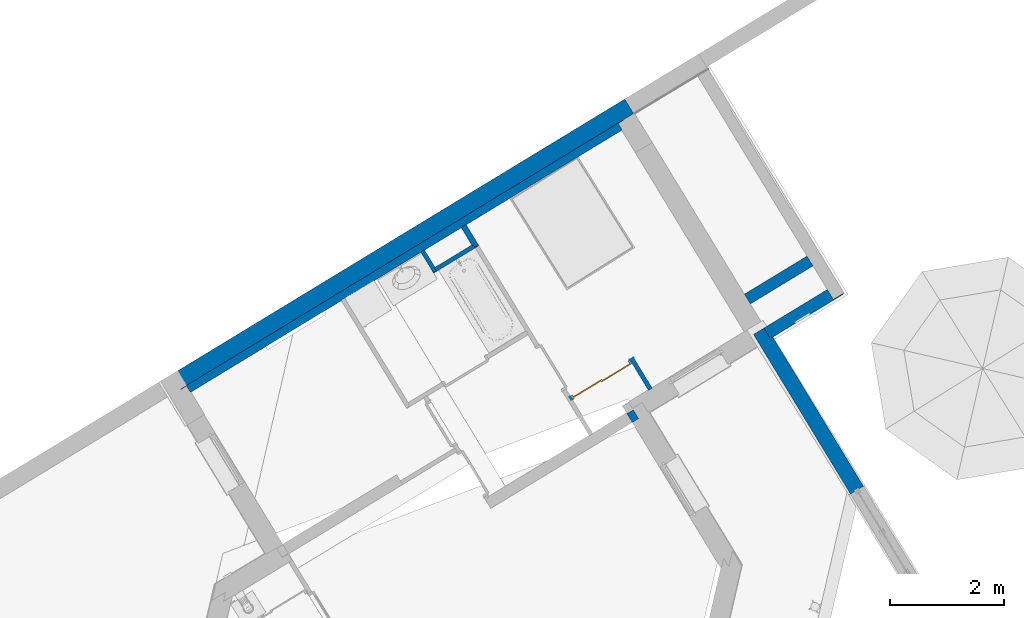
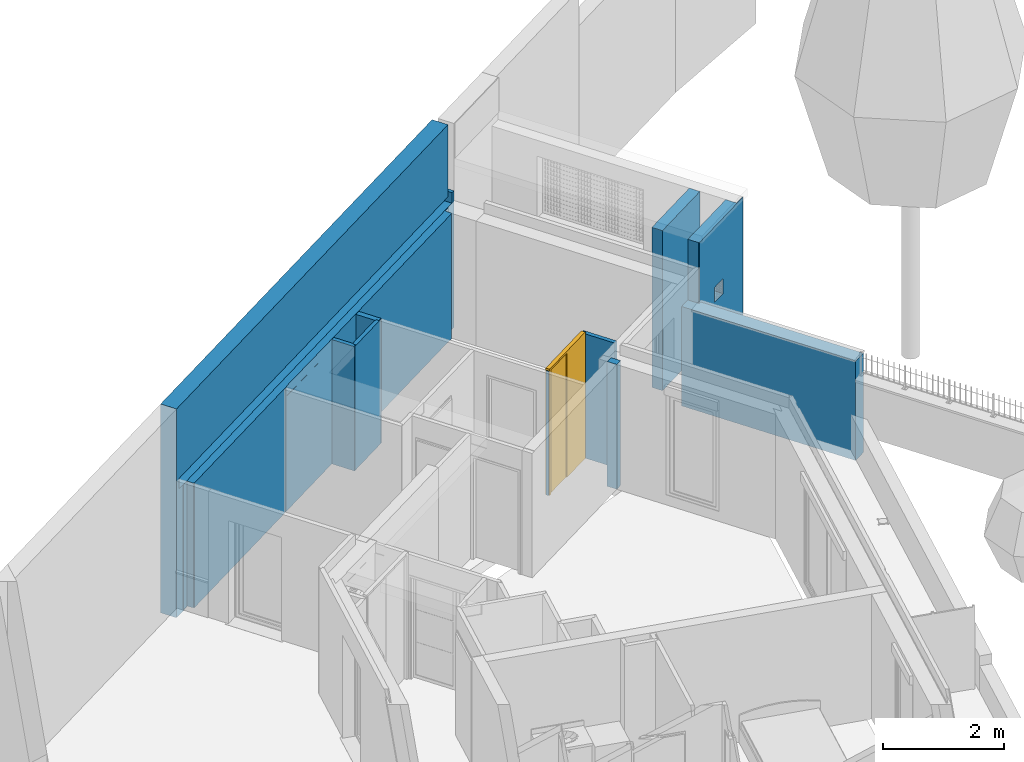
# One storey, part 63 of 119: 11 walls, 1 door, 2 openings.
"""IFC2X3 building model written with IfcOpenShell, lengths in metres."""

from ifc_helpers import new_model, entity, si_unit, converted_unit, derived_unit, money_unit, direction, frame, origin_with_axes, place, context, subcontext, project, spatial, faceted_brep, material, material_list, type_object, element, fill, save


model = new_model("IFC2X3")

# Units and contexts
model_context = context("Model", 3, precision=1e-05, world=origin_with_axes(), true_north=direction((0.0, 1.0)))
body_context = subcontext(model_context, "Body", "Model", "MODEL_VIEW")
ifc_project = project(units=[si_unit("LENGTHUNIT", "METRE"), si_unit("AREAUNIT", "SQUARE_METRE"), si_unit("VOLUMEUNIT", "CUBIC_METRE"), converted_unit("PLANEANGLEUNIT", "DEGREE", entity("IfcPlaneAngleMeasure", 0.0174532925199), si_unit("PLANEANGLEUNIT", "RADIAN"), dimensions=[0, 0, 0, 0, 0, 0, 0]), si_unit("SOLIDANGLEUNIT", "STERADIAN"), money_unit("EUR"), converted_unit("TIMEUNIT", "Year", entity("IfcTimeMeasure", 31556926.0), si_unit("TIMEUNIT", "SECOND"), dimensions=[0, 0, 1, 0, 0, 0, 0]), si_unit("MASSUNIT", "GRAM", prefix="KILO"), si_unit("THERMODYNAMICTEMPERATUREUNIT", "DEGREE_CELSIUS"), si_unit("LUMINOUSINTENSITYUNIT", "LUMEN"), si_unit("ENERGYUNIT", "JOULE", prefix="MEGA"), derived_unit("THERMALCONDUCTANCEUNIT", [(si_unit("POWERUNIT", "WATT"), 1), (si_unit("LENGTHUNIT", "METRE"), -1), (si_unit("THERMODYNAMICTEMPERATUREUNIT", "KELVIN"), -1)]), derived_unit("SPECIFICHEATCAPACITYUNIT", [(si_unit("ENERGYUNIT", "JOULE"), 1), (si_unit("MASSUNIT", "GRAM", prefix="KILO"), -1), (si_unit("THERMODYNAMICTEMPERATUREUNIT", "KELVIN"), -1)]), derived_unit("MASSDENSITYUNIT", [(si_unit("MASSUNIT", "GRAM", prefix="KILO"), 1), (si_unit("VOLUMEUNIT", "CUBIC_METRE"), -1)])], contexts=[model_context])

# Site, building, storey
site_placement = place(None, origin_with_axes())
site = spatial("IfcSite", under=ifc_project, at=site_placement, Name="Site", CompositionType="ELEMENT")
building_placement = place(site_placement, origin_with_axes())
building = spatial("IfcBuilding", under=site, at=building_placement, Name="Bâtiment", CompositionType="ELEMENT")
storey_placement = place(building_placement, origin_with_axes())
storey = spatial("IfcBuildingStorey", under=building, at=storey_placement, Name="Rez-de-chaussée", CompositionType="ELEMENT", Elevation=0.0)

# Walls
ifc_material_1 = material(Name="Béton")
wall_type_1 = type_object("IfcWallType", Name="Béton 300", PredefinedType="USERDEFINED")
wall_1_placement = place(storey_placement, frame((-7.80210997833, 21.1996658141, -0.03), z_axis=(0.0, 0.0, 1.0), x_axis=(0.854539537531, 0.519386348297, 0.0)))
element("IfcWall", 1, at=wall_1_placement, inside=storey, type_object=wall_type_1, material=ifc_material_1, Name="Voile projeté béton par passes alternées", ObjectType="SOLIDWALL", context=body_context, shape_type="Brep", body=[
    faceted_brep([(9.51500000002, 0.0, 2.75), (9.31500000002, 0.0, 2.75), (9.31500000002, -0.0679999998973, 2.75), (9.44700000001, -0.0679999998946, 2.75), (9.44700000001, -0.3, 2.75), (9.51500000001, -0.3, 2.75), (0.0, 0.0, 4.2), (9.31500000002, 0.0, 4.19999999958), (9.51499999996, 0.0, 0.0), (0.0, 0.0, 0.0), (9.31500000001, -0.3, 4.19999999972), (9.31500000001, -0.3, 2.75), (0.0829999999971, -0.068000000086, 2.54), (9.44700000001, -0.0679999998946, 2.54), (0.0829999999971, -0.068000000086, 2.75), (9.44700000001, -0.3, 2.54), (0.0829999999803, -0.3, 2.54), (0.0829999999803, -0.3, 2.75), (0.0, -0.3, 4.2), (0.0, -0.3, 0.0), (9.51499999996, -0.3, 0.0)], [[[0, 1, 2, 3, 4, 5]], [[6, 7, 1, 0, 8, 9]], [[7, 10, 11, 2, 1]], [[12, 13, 3, 2, 14]], [[3, 13, 15, 4]], [[15, 16, 17, 11, 10, 18, 19, 20, 5, 4]], [[5, 20, 8, 0]], [[7, 6, 18, 10]], [[8, 20, 19, 9]], [[19, 18, 6, 9]], [[17, 14, 2, 11]], [[13, 12, 16, 15]], [[12, 14, 17, 16]]]),
])
ifc_material_2 = material(Name="Parpaing 20cm")
wall_type_2 = type_object("IfcWallType", Name="Parpaing 20cm 200", PredefinedType="STANDARD")
wall_2_placement = place(storey_placement, frame((3.62635164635, 23.219217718, 0.0), z_axis=(0.0, 0.0, 1.0), x_axis=(-0.854539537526, -0.519386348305, 0.0)))
element("IfcWall", 2, at=wall_2_placement, inside=storey, type_object=wall_type_2, material=ifc_material_2, Name="M_Ext-007", ObjectType="STANDARD", context=body_context, shape_type="Brep", body=[
    faceted_brep([(0.0, 0.0, 3.22), (0.0, -0.2, 3.22), (1.28499998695, -0.2, 3.22), (1.28499998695, 0.0, 3.22), (0.0, 0.0, 0.0), (0.0, -0.2, 0.0), (1.28498076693, -0.2, 0.0), (1.28498076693, -0.2, 2.72), (1.28499998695, -0.2, 2.72), (1.28499998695, 0.0, 2.72), (1.28498076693, 0.0, 2.72), (1.28498076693, 0.0, 0.0)], [[[0, 1, 2, 3]], [[0, 4, 5, 1]], [[6, 7, 8, 2, 1, 5]], [[2, 8, 9, 3]], [[4, 0, 3, 9, 10, 11]], [[5, 4, 11, 6]], [[6, 11, 10, 7]], [[7, 10, 9, 8]]]),
])

# Wall, opening, door
ifc_material_3 = material(Name="Finition int - Plaque de plâtre")
ifc_material_4 = material(Name="Isolation - Laine de roche")
ifc_material_list_1 = material_list([ifc_material_3, ifc_material_4, ifc_material_3])
wall_type_3 = type_object("IfcWallType", Name="3 - Cloison 72mm Placostil 74", PredefinedType="USERDEFINED")
wall_3_placement = place(storey_placement, frame((-0.689748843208, 20.8982604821, 0.0), z_axis=(0.0, 0.0, 1.0), x_axis=(0.854539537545, 0.519386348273, 0.0)))
wall_3 = element("IfcWall", 3, at=wall_3_placement, inside=storey, type_object=wall_type_3, material=ifc_material_list_1, Name="Cloison Placostil 72/48", ObjectType="PARTITIONING", context=body_context, shape_type="Brep", body=[
    faceted_brep([(1.29890623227, 0.0, 2.5), (1.29890623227, -0.013, 2.5), (1.37290623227, -0.013, 2.5), (1.37290623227, 0.0, 2.5), (1.29890623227, -0.013, 0.0), (1.29890623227, 0.0, 0.0), (1.37290623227, -0.013, 0.0), (1.37290623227, 0.0, 0.0)], [[[0, 1, 2, 3]], [[4, 1, 0, 5]], [[1, 4, 6, 2]], [[2, 6, 7, 3]], [[5, 0, 3, 7]], [[4, 5, 7, 6]]]),
    faceted_brep([(0.074, -0.061, 0.0), (0.074, -0.061, 2.5), (0.0610000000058, -0.061, 2.5), (0.0610000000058, -0.061, 0.0), (0.074, -0.013, 2.5), (0.074, -0.013, 0.0), (0.0610000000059, -0.013, 2.5), (0.0610000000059, -0.013, 0.0)], [[[0, 1, 2, 3]], [[4, 1, 0, 5]], [[1, 4, 6, 2]], [[2, 6, 7, 3]], [[5, 0, 3, 7]], [[4, 5, 7, 6]]]),
    faceted_brep([(1.29890623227, -0.013, 2.5), (1.29890623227, -0.061, 2.5), (1.35990623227, -0.061, 2.5), (1.35990623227, -0.013, 2.5), (1.29890623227, -0.061, 0.0), (1.29890623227, -0.013, 0.0), (1.35990623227, -0.061, 0.0), (1.35990623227, -0.013, 0.0)], [[[0, 1, 2, 3]], [[4, 1, 0, 5]], [[1, 4, 6, 2]], [[2, 6, 7, 3]], [[5, 0, 3, 7]], [[4, 5, 7, 6]]]),
    faceted_brep([(1.29890623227, -0.061, 2.5), (1.29890623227, -0.074, 2.5), (1.31190623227, -0.074, 2.5), (1.31190623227, -0.061, 2.5), (1.29890623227, -0.074, 0.0), (1.29890623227, -0.061, 0.0), (1.31190623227, -0.074, 0.0), (1.31190623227, -0.061, 0.0)], [[[0, 1, 2, 3]], [[4, 1, 0, 5]], [[1, 4, 6, 2]], [[2, 6, 7, 3]], [[5, 0, 3, 7]], [[4, 5, 7, 6]]]),
])
opening_1_placement = place(wall_3_placement, frame((0.686453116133, 0.0, 0.0), z_axis=(0.0, 0.0, 1.0), x_axis=(1.0, 0.0, 0.0)))
opening_1 = element("IfcOpeningElement", 4, at=opening_1_placement, cuts=wall_3, Name="Por-002", context=body_context, shape_type="Brep", body=[
    faceted_brep([(0.612453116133, -0.074, 0.0), (-0.612453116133, -0.074, 0.0), (-0.612453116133, 0.074, 0.0), (0.612453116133, 0.074, 0.0), (0.612453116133, -0.074, 2.54), (-0.612453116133, -0.074, 2.54), (-0.612453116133, 0.074, 2.54), (0.612453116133, 0.074, 2.54)], [[[0, 1, 2, 3]], [[0, 4, 5, 1]], [[1, 5, 6, 2]], [[3, 2, 6, 7]], [[4, 0, 3, 7]], [[5, 4, 7, 6]]]),
])
door_style = type_object("IfcDoorStyle", Name="Porte int générique 2019", ConstructionType="NOTDEFINED", OperationType="USERDEFINED", ParameterTakesPrecedence=False, Sizeable=False)
door_placement = place(opening_1_placement, frame((0.572453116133, 0.0, 0.0), z_axis=(0.0, 0.0, 1.0), x_axis=(-1.0, 0.0, 0.0)))
door = element("IfcDoor", 5, at=door_placement, inside=storey, type_object=door_style, Name="Por-002", ObjectType="DOOR", OverallHeight=2.5, OverallWidth=1.14491, context=body_context, shape_type="Brep", body=[
    faceted_brep([(-0.04, 0.074, 0.0), (-0.04, 0.074, 2.54), (1.18490623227, 0.074, 2.54), (1.18490623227, 0.074, 0.0), (1.14490623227, 0.074, 0.0), (1.14490623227, 0.074, 2.5), (0.0, 0.074, 2.5), (0.0, 0.074, 0.0), (-0.04, 0.0, 0.0), (-0.04, 0.0, 2.54), (1.18490623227, 0.0, 2.54), (1.18490623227, 0.0, 0.0), (1.14490623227, 0.0, 0.0), (1.14490623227, 0.0, 2.5), (0.0, 0.0, 2.5), (0.0, 0.0, 0.0)], [[[0, 1, 2, 3, 4, 5, 6, 7]], [[8, 9, 1, 0]], [[9, 10, 2, 1]], [[10, 11, 3, 2]], [[3, 11, 12, 4]], [[5, 4, 12, 13]], [[6, 5, 13, 14]], [[7, 6, 14, 15]], [[0, 7, 15, 8]], [[15, 14, 13, 12, 11, 10, 9, 8]]]),
    faceted_brep([(0.0, 0.074, 0.0), (0.587453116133, 0.074, 0.0), (0.587453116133, 0.054, 0.0), (0.0, 0.054, 0.0), (0.0, 0.074, 2.5), (0.587453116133, 0.074, 2.5), (0.587453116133, 0.054, 2.5), (0.0, 0.054, 2.5)], [[[0, 1, 2, 3]], [[0, 4, 5, 1]], [[1, 5, 6, 2]], [[3, 2, 6, 7]], [[4, 0, 3, 7]], [[5, 4, 7, 6]]]),
    faceted_brep([(0.557453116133, 0.054, 0.0), (1.14490623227, 0.054, 0.0), (1.14490623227, 0.034, 0.0), (0.557453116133, 0.034, 0.0), (0.557453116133, 0.054, 2.5), (1.14490623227, 0.054, 2.5), (1.14490623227, 0.034, 2.5), (0.557453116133, 0.034, 2.5)], [[[0, 1, 2, 3]], [[0, 4, 5, 1]], [[1, 5, 6, 2]], [[3, 2, 6, 7]], [[4, 0, 3, 7]], [[5, 4, 7, 6]]]),
])
fill(opening_1, door)

# Walls
wall_4_placement = place(storey_placement, frame((0.483453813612, 21.6113292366, 0.0), z_axis=(0.0, 0.0, 1.0), x_axis=(0.519386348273, -0.854539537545, 0.0)))
element("IfcWall", 6, at=wall_4_placement, inside=storey, type_object=wall_type_3, material=ifc_material_list_1, Name="Cloison Placostil 72/48", ObjectType="PARTITIONING", context=body_context, shape_type="Brep", body=[
    faceted_brep([(0.0129999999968, -0.013, 2.5), (0.628249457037, -0.013, 2.5), (0.628249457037, 0.0, 2.5), (0.0129999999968, 0.0, 2.5), (0.0129999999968, -0.013, 0.0), (0.628249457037, -0.013, 0.0), (0.628249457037, 0.0, 0.0), (0.0129999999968, 0.0, 0.0)], [[[0, 1, 2, 3]], [[4, 5, 1, 0]], [[2, 1, 5, 6]], [[3, 2, 6, 7]], [[4, 0, 3, 7]], [[7, 6, 5, 4]]]),
    faceted_brep([(0.0609999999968, -0.061, 2.5), (0.628249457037, -0.061, 2.5), (0.628249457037, -0.013, 2.5), (0.0609999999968, -0.013, 2.5), (0.0609999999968, -0.061, 0.0), (0.628249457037, -0.061, 0.0), (0.628249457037, -0.013, 0.0), (0.0609999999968, -0.013, 0.0)], [[[0, 1, 2, 3]], [[4, 5, 1, 0]], [[2, 1, 5, 6]], [[3, 2, 6, 7]], [[4, 0, 3, 7]], [[7, 6, 5, 4]]]),
    faceted_brep([(0.0739999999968, -0.074, 2.5), (0.628249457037, -0.074, 2.5), (0.628249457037, -0.061, 2.5), (0.0739999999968, -0.061, 2.5), (0.0739999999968, -0.074, 0.0), (0.628249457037, -0.074, 0.0), (0.628249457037, -0.061, 0.0), (0.0739999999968, -0.061, 0.0)], [[[0, 1, 2, 3]], [[4, 5, 1, 0]], [[2, 1, 5, 6]], [[3, 2, 6, 7]], [[4, 0, 3, 7]], [[7, 6, 5, 4]]]),
])
wall_type_4 = type_object("IfcWallType", Name="3 - Cloison Gaine Technique 72mm 74", PredefinedType="USERDEFINED")
wall_5_placement = place(storey_placement, frame((-3.01952206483, 23.0907554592, 0.0), z_axis=(0.0, 0.0, 1.0), x_axis=(0.854539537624, 0.519386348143, 0.0)))
element("IfcWall", 7, at=wall_5_placement, inside=storey, type_object=wall_type_4, material=ifc_material_list_1, Name="Cloison Placostil 72/48", ObjectType="PARTITIONING", context=body_context, shape_type="Brep", body=[
    faceted_brep([(0.828131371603, 0.074, 0.0), (0.828131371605, 0.061, 0.0), (0.0740000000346, 0.061, 0.0), (0.074000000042, 0.074, 0.0), (0.828131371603, 0.074, 2.5), (0.828131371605, 0.061, 2.5), (0.0740000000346, 0.061, 2.5), (0.074000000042, 0.074, 2.5)], [[[0, 1, 2, 3]], [[1, 0, 4, 5]], [[1, 5, 6, 2]], [[7, 3, 2, 6]], [[4, 0, 3, 7]], [[5, 4, 7, 6]]]),
    faceted_brep([(0.854131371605, 0.061, 0.0), (0.854131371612, 0.013, 0.0), (0.0610000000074, 0.013, 0.0), (0.0610000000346, 0.061, 0.0), (0.854131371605, 0.061, 2.5), (0.854131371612, 0.013, 2.5), (0.0610000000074, 0.013, 2.5), (0.0610000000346, 0.061, 2.5)], [[[0, 1, 2, 3]], [[1, 0, 4, 5]], [[1, 5, 6, 2]], [[7, 3, 2, 6]], [[4, 0, 3, 7]], [[5, 4, 7, 6]]]),
    faceted_brep([(0.902131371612, 0.013, 0.0), (0.902131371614, 0.0, 0.0), (0.013, 0.0, 0.0), (0.0130000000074, 0.013, 0.0), (0.902131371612, 0.013, 2.5), (0.902131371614, 0.0, 2.5), (0.013, 0.0, 2.5), (0.0130000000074, 0.013, 2.5)], [[[0, 1, 2, 3]], [[1, 0, 4, 5]], [[1, 5, 6, 2]], [[7, 3, 2, 6]], [[4, 0, 3, 7]], [[5, 4, 7, 6]]]),
])
wall_6_placement = place(storey_placement, frame((-3.24189035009, 23.4566150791, 0.0), z_axis=(0.0, 0.0, 1.0), x_axis=(0.519386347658, -0.854539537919, 0.0)))
element("IfcWall", 8, at=wall_6_placement, inside=storey, type_object=wall_type_4, material=ifc_material_list_1, Name="Cloison Placostil 72/48", ObjectType="PARTITIONING", context=body_context, shape_type="Brep", body=[
    faceted_brep([(0.367136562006, 0.074, 0.0), (-1.19771854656e-08, 0.074, 0.0), (-1.19771854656e-08, 0.074, 2.5), (0.367136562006, 0.074, 2.5), (0.367136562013, 0.061, 0.0), (-1.19673053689e-08, 0.061, 0.0), (-1.19673053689e-08, 0.061, 2.5), (0.367136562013, 0.061, 2.5)], [[[0, 1, 2, 3]], [[4, 5, 1, 0]], [[5, 6, 2, 1]], [[3, 2, 6, 7]], [[4, 0, 3, 7]], [[7, 6, 5, 4]]]),
    faceted_brep([(0.415136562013, 0.061, 0.0), (-0.00999998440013, 0.061, 0.0), (-0.00999998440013, 0.061, 2.5), (0.415136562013, 0.061, 2.5), (0.41513656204, 0.013, 0.0), (-0.00999998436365, 0.013, 0.0), (-0.00999998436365, 0.013, 2.5), (0.41513656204, 0.013, 2.5)], [[[0, 1, 2, 3]], [[4, 5, 1, 0]], [[5, 6, 2, 1]], [[3, 2, 6, 7]], [[4, 0, 3, 7]], [[7, 6, 5, 4]]]),
    faceted_brep([(0.42813656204, 0.013, 0.0), (-1.19308154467e-08, 0.013, 0.0), (-1.19308154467e-08, 0.013, 2.5), (0.42813656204, 0.013, 2.5), (0.428136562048, 0.0, 0.0), (-1.19209389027e-08, 0.0, 0.0), (-1.192093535e-08, 0.0, 2.5), (0.428136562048, 0.0, 2.5)], [[[0, 1, 2, 3]], [[4, 5, 1, 0]], [[5, 6, 2, 1]], [[3, 2, 6, 7]], [[4, 0, 3, 7]], [[7, 6, 5, 4]]]),
])

# Wall, opening
ifc_material_5 = material(Name="Finition ext - Crépis")
ifc_material_list_2 = material_list([ifc_material_5, ifc_material_1])
wall_type_5 = type_object("IfcWallType", Name="1 - Mur BETON 20+ ravalement 1 face 215", PredefinedType="STANDARD")
wall_7_placement = place(storey_placement, frame((4.17364809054, 22.7327081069, 0.0), z_axis=(0.0, 0.0, 1.0), x_axis=(-0.854539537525, -0.519386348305, 0.0)))
wall_7 = element("IfcWall", 9, at=wall_7_placement, inside=storey, type_object=wall_type_5, material=ifc_material_list_2, Name="M_Ext-004", ObjectType="STANDARD", context=body_context, shape_type="Brep", body=[
    faceted_brep([(1.49998076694, -0.015, 0.0), (1.49998076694, 0.0, 0.0), (1.49998076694, 0.0, 2.72), (1.49998076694, -0.015, 2.72), (0.015, -3.87430176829e-09, 0.0), (0.015, -0.015, 0.0), (0.015, -3.87430176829e-09, 3.22), (1.49999998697, 0.0, 3.22), (1.49999998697, 0.0, 2.72), (0.699628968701, 0.0, 1.7), (0.999628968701, 0.0, 1.7), (0.999628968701, 0.0, 2.0), (0.699628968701, 0.0, 2.0), (1.49999998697, -0.015, 2.72), (1.49999998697, -0.015, 3.22), (0.015, -0.015, 3.22), (0.999628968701, -0.015, 1.7), (0.699628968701, -0.015, 1.7), (0.699628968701, -0.015, 2.0), (0.999628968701, -0.015, 2.0)], [[[0, 1, 2, 3]], [[4, 1, 0, 5]], [[1, 4, 6, 7, 8, 2], [9, 10, 11, 12]], [[2, 8, 13, 3]], [[5, 0, 3, 13, 14, 15], [16, 17, 18, 19]], [[15, 6, 4, 5]], [[15, 14, 7, 6]], [[13, 8, 7, 14]], [[17, 16, 10, 9]], [[19, 11, 10, 16]], [[12, 11, 19, 18]], [[12, 18, 17, 9]]]),
    faceted_brep([(1.51500000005, -0.015, 2.72), (1.51498076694, -0.015, 2.72), (1.51498076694, -0.015, 0.0), (0.215, -0.015, 0.0), (0.215, -0.015, 3.22), (1.51500000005, -0.015, 3.22), (0.699628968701, -0.015, 2.0), (0.699628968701, -0.015, 1.7), (0.999628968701, -0.015, 1.7), (0.999628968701, -0.015, 2.0), (1.51498076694, -0.215, 2.72), (1.51500000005, -0.215, 2.72), (1.51498076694, -0.215, 0.0), (0.215, -0.215, 0.0), (0.215, -0.215, 3.22), (1.51500000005, -0.215, 3.22), (0.699628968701, -0.215, 2.0), (0.699628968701, -0.215, 1.7), (0.999628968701, -0.215, 1.7), (0.999628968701, -0.215, 2.0)], [[[0, 1, 2, 3, 4, 5], [6, 7, 8, 9]], [[10, 1, 0, 11]], [[2, 1, 10, 12]], [[3, 2, 12, 13]], [[13, 14, 4, 3]], [[5, 4, 14, 15]], [[15, 11, 0, 5]], [[16, 17, 7, 6]], [[17, 18, 8, 7]], [[18, 19, 9, 8]], [[19, 16, 6, 9]], [[12, 10, 11, 15, 14, 13], [16, 19, 18, 17]]]),
])
opening_2_placement = place(wall_7_placement, frame((15.3736055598, 17.2582620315, 0.0), z_axis=(0.0, 0.0, 1.0), x_axis=(-0.854539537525, 0.519386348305, 0.0)))
element("IfcOpeningElement", 10, at=opening_2_placement, cuts=wall_7, Name="PERCEMENT-002", context=body_context, shape_type="Brep", body=[
    faceted_brep([(2.65333432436, 23.8870304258, 1.7), (2.65333432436, 23.8870304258, 2.0), (4.42311016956, 20.9752414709, 2.0), (4.42311016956, 20.9752414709, 1.7), (2.30226806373, 23.8870304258, 1.7), (2.30226806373, 23.8870304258, 2.0), (4.07204390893, 20.9752414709, 2.0), (4.07204390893, 20.9752414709, 1.7)], [[[0, 1, 2, 3]], [[0, 4, 5, 1]], [[1, 5, 6, 2]], [[3, 2, 6, 7]], [[4, 0, 3, 7]], [[5, 4, 7, 6]]]),
])

# Walls
wall_type_6 = type_object("IfcWallType", Name="Béton 180", PredefinedType="USERDEFINED")
wall_8_placement = place(storey_placement, frame((0.571763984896, 20.5434946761, 0.0), z_axis=(0.0, 0.0, 1.0), x_axis=(-0.854539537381, -0.519386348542, 0.0)))
element("IfcWall", 11, at=wall_8_placement, inside=storey, type_object=wall_type_6, material=ifc_material_1, Name="M_Ext-008", ObjectType="SOLIDWALL", context=body_context, shape_type="Brep", body=[
    faceted_brep([(0.0, -0.18, 0.0), (0.0, -0.18, 2.51), (0.0, 0.0, 2.51), (0.0, 0.0, 0.0), (0.130000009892, -0.18, 0.0), (0.130000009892, -0.18, 2.51), (0.130000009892, 0.0, 2.51), (0.130000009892, 0.0, 0.0)], [[[0, 1, 2, 3]], [[4, 5, 1, 0]], [[5, 6, 2, 1]], [[3, 2, 6, 7]], [[0, 3, 7, 4]], [[7, 6, 5, 4]]]),
])
ifc_material_list_3 = material_list([ifc_material_3, ifc_material_3, ifc_material_4, ifc_material_3, ifc_material_3])
wall_type_7 = type_object("IfcWallType", Name="3 - Cloison Gaine Technique 98mm 100", PredefinedType="USERDEFINED")
wall_9_placement = place(storey_placement, frame((-2.53421935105, 23.886735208, 0.0), z_axis=(0.0, 0.0, 1.0), x_axis=(0.519386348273, -0.854539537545, 0.0)))
element("IfcWall", 12, at=wall_9_placement, inside=storey, type_object=wall_type_7, material=ifc_material_list_3, Name="Cloison 98 isolée", ObjectType="PARTITIONING", context=body_context, shape_type="Brep", body=[
    faceted_brep([(0.428136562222, 0.1, 0.0), (-1.19249747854e-08, 0.1, 0.0), (-1.19249747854e-08, 0.1, 2.5), (0.428136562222, 0.1, 2.5), (0.42813656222, 0.087, 0.0), (-1.19244489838e-08, 0.087, 0.0), (-1.19244489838e-08, 0.087, 2.5), (0.42813656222, 0.087, 2.5)], [[[0, 1, 2, 3]], [[4, 5, 1, 0]], [[5, 6, 2, 1]], [[3, 2, 6, 7]], [[4, 0, 3, 7]], [[7, 6, 5, 4]]]),
    faceted_brep([(0.42813656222, 0.087, 0.0), (-0.00999998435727, 0.087, 0.0), (-0.00999998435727, 0.087, 2.5), (0.42813656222, 0.087, 2.5), (0.428136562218, 0.074, 0.0), (-0.00999998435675, 0.074, 0.0), (-0.00999998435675, 0.074, 2.5), (0.428136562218, 0.074, 2.5)], [[[0, 1, 2, 3]], [[4, 5, 1, 0]], [[5, 6, 2, 1]], [[3, 2, 6, 7]], [[4, 0, 3, 7]], [[7, 6, 5, 4]]]),
    faceted_brep([(0.415136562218, 0.074, 0.0), (-0.00999998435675, 0.074, 0.0), (-0.00999998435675, 0.074, 2.5), (0.415136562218, 0.074, 2.5), (0.415136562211, 0.026, 0.0), (-0.00999998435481, 0.026, 0.0), (-0.00999998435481, 0.026, 2.5), (0.415136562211, 0.026, 2.5)], [[[0, 1, 2, 3]], [[4, 5, 1, 0]], [[5, 6, 2, 1]], [[3, 2, 6, 7]], [[4, 0, 3, 7]], [[7, 6, 5, 4]]]),
    faceted_brep([(0.367136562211, 0.026, 0.0), (-0.00999998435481, 0.026, 0.0), (-0.00999998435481, 0.026, 2.5), (0.367136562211, 0.026, 2.5), (0.367136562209, 0.013, 0.0), (-0.00999998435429, 0.013, 0.0), (-0.00999998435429, 0.013, 2.5), (0.367136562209, 0.013, 2.5)], [[[0, 1, 2, 3]], [[4, 5, 1, 0]], [[5, 6, 2, 1]], [[3, 2, 6, 7]], [[4, 0, 3, 7]], [[7, 6, 5, 4]]]),
    faceted_brep([(0.367136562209, 0.013, 0.0), (-1.1921468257e-08, 0.013, 0.0), (-1.1921468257e-08, 0.013, 2.5), (0.367136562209, 0.013, 2.5), (0.367136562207, 0.0, 0.0), (-1.19209424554e-08, 0.0, 0.0), (-1.19209424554e-08, 0.0, 2.5), (0.367136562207, 0.0, 2.5)], [[[0, 1, 2, 3]], [[4, 5, 1, 0]], [[5, 6, 2, 1]], [[3, 2, 6, 7]], [[4, 0, 3, 7]], [[7, 6, 5, 4]]]),
])
ifc_material_6 = material(Name="Isolation - Polystyrène extrudé")
ifc_material_7 = material(Name="Etanchéité résine")
ifc_material_list_4 = material_list([ifc_material_3, ifc_material_6, ifc_material_7])
wall_type_8 = type_object("IfcWallType", Name="Etanchéité intérieure+isolant TH32 140 x 2510", PredefinedType="ELEMENTEDWALL")
wall_10_placement = place(storey_placement, frame((0.557292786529, 25.7657462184, 0.0), z_axis=(0.0, 0.0, 1.0), x_axis=(-0.854539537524, -0.519386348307, 0.0)))
element("IfcWall", 13, at=wall_10_placement, inside=storey, type_object=wall_type_8, material=ifc_material_list_4, Name="M_Ext-011", ObjectType="ELEMENTEDWALL", context=body_context, shape_type="Brep", body=[
    faceted_brep([(6.00415466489, -1.19209389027e-08, 2.51), (6.004154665, -0.00648062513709, 2.51), (4.59609060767, -1.19209424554e-08, 2.51), (0.33, -1.19209389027e-08, 2.51), (0.33, -0.00999998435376, 2.51), (9.15994999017, -0.00999998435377, 2.51), (9.15994999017, -1.19209424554e-08, 2.51), (6.00415466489, -1.19209424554e-08, 2.31), (6.004154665, -0.00648062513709, 2.31), (4.59609060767, -1.19209424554e-08, 2.31), (9.15994999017, -1.19209424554e-08, 0.967793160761), (9.15994999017, -1.19209424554e-08, 0.936532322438), (9.15994999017, -1.19209424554e-08, 0.929581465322), (9.15994999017, -1.19209424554e-08, 0.92), (9.15994999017, -1.19209424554e-08, 0.893633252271), (9.15994999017, -1.19209424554e-08, 0.05), (9.15994999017, -1.19209424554e-08, 0.0), (6.06515464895, -1.19209424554e-08, 0.0), (6.06515464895, -1.19209424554e-08, 2.5), (6.01715464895, -1.19209389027e-08, 2.5), (6.01715464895, -1.19209389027e-08, 0.0), (4.43288339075, -1.19209389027e-08, 0.0), (4.43288339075, -1.19209389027e-08, 2.5), (4.38488339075, -1.19209389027e-08, 2.5), (4.38488339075, -1.19209424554e-08, 0.0), (3.60475201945, -1.19209424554e-08, 0.0), (3.60475201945, -1.19209389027e-08, 2.5), (3.59175201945, -1.19209389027e-08, 2.5), (3.54375201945, -1.19209389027e-08, 2.5), (3.53075201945, -1.19209424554e-08, 2.5), (3.53075201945, -1.19209424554e-08, 0.0), (0.33, -1.19209389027e-08, 0.0), (0.33, -0.00999998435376, 0.0), (6.01715464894, -0.00999998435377, 2.5), (6.06515464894, -0.00999998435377, 2.5), (6.06515464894, -0.00999998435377, 0.0), (9.15994999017, -0.00999998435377, 0.0), (9.15994999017, -0.00999998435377, 0.05), (9.15994999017, -0.00999998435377, 0.893633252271), (9.15994999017, -0.00999998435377, 0.92), (9.15994999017, -0.00999998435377, 0.929581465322), (9.15994999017, -0.00999998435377, 0.936532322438), (9.15994999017, -0.00999998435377, 0.967793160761), (3.53075201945, -0.00999998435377, 0.0), (3.53075201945, -0.00999998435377, 2.5), (3.54375201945, -0.00999998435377, 2.5), (3.59175201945, -0.00999998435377, 2.5), (3.60475201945, -0.00999998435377, 2.5), (3.60475201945, -0.00999998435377, 0.0), (4.38488339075, -0.00999998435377, 0.0), (4.38488339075, -0.00999998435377, 2.5), (4.43288339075, -0.00999998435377, 2.5), (4.43288339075, -0.00999998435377, 0.0), (6.01715464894, -0.00999998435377, 0.0)], [[[0, 1, 2, 3, 4, 5, 6]], [[1, 0, 7, 8]], [[9, 2, 1, 8]], [[7, 0, 6, 10, 11, 12, 13, 14, 15, 16, 17, 18, 19, 20, 21, 22, 23, 24, 25, 26, 27, 28, 29, 30, 31, 3, 2, 9]], [[31, 32, 4, 3]], [[33, 34, 35, 36, 37, 38, 39, 40, 41, 42, 5, 4, 32, 43, 44, 45, 46, 47, 48, 49, 50, 51, 52, 53]], [[5, 42, 10, 6]], [[7, 9, 8]], [[41, 11, 10, 42]], [[41, 40, 12, 11]], [[13, 12, 40, 39]], [[38, 14, 13, 39]], [[14, 38, 37, 15]], [[16, 15, 37, 36]], [[36, 35, 17, 16]], [[34, 18, 17, 35]], [[33, 19, 18, 34]], [[53, 20, 19, 33]], [[21, 20, 53, 52]], [[52, 51, 22, 21]], [[51, 50, 23, 22]], [[50, 49, 24, 23]], [[48, 25, 24, 49]], [[26, 25, 48, 47]], [[46, 27, 26, 47]], [[28, 27, 46, 45]], [[28, 45, 44, 29]], [[29, 44, 43, 30]], [[43, 32, 31, 30]]]),
    faceted_brep([(9.16995000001, -0.129999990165, 2.51), (9.16995000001, -0.00999998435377, 2.51), (0.32, -0.00999998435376, 2.51), (0.319999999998, -0.129999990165, 2.51), (9.16995000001, -0.00999998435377, 0.967793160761), (9.16995000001, -0.129999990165, 0.967793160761), (9.16995000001, -0.00999998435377, 0.936532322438), (9.16995000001, -0.00999998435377, 0.929581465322), (9.16995000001, -0.00999998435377, 0.92), (9.16995000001, -0.00999998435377, 0.893633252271), (9.16995000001, -0.00999998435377, 0.05), (9.16995000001, -0.00999998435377, 0.0), (0.32, -0.00999998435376, 0.0), (0.319999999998, -0.129999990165, 0.0), (9.16995000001, -0.129999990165, 0.0), (9.16995000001, -0.129999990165, 0.05), (9.16995000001, -0.129999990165, 0.893633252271), (9.16995000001, -0.129999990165, 0.92), (9.16995000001, -0.129999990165, 0.929581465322), (9.16995000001, -0.129999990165, 0.936532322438)], [[[0, 1, 2, 3]], [[4, 1, 0, 5]], [[1, 4, 6, 7, 8, 9, 10, 11, 12, 2]], [[13, 3, 2, 12]], [[5, 0, 3, 13, 14, 15, 16, 17, 18, 19]], [[4, 5, 19, 6]], [[6, 19, 18, 7]], [[8, 7, 18, 17]], [[9, 8, 17, 16]], [[15, 10, 9, 16]], [[14, 11, 10, 15]], [[11, 14, 13, 12]]]),
    faceted_brep([(9.28995000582, -0.139999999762, 2.51), (9.28995000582, -0.13, 2.51), (0.209999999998, -0.13, 2.51), (0.209999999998, -0.139999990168, 2.51), (9.28995000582, -0.13, 0.967793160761), (9.28995000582, -0.14, 0.967793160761), (9.28995000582, -0.13, 0.936532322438), (9.28995000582, -0.13, 0.929581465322), (9.28995000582, -0.13, 0.92), (9.28995000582, -0.13, 0.893633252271), (9.28995000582, -0.13, 0.05), (9.28995000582, -0.13, 0.0), (0.209999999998, -0.13, 0.0), (0.209999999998, -0.139999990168, 0.0), (9.28995000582, -0.139999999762, 0.0), (9.28995000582, -0.14, 0.05), (9.28995000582, -0.14, 0.893633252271), (9.28995000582, -0.14, 0.92), (9.28995000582, -0.14, 0.929581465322), (9.28995000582, -0.14, 0.936532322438)], [[[0, 1, 2, 3]], [[4, 1, 0, 5]], [[1, 4, 6, 7, 8, 9, 10, 11, 12, 2]], [[12, 13, 3, 2]], [[5, 0, 3, 13, 14, 15, 16, 17, 18, 19]], [[4, 5, 19, 6]], [[19, 18, 7, 6]], [[18, 17, 8, 7]], [[16, 9, 8, 17]], [[15, 10, 9, 16]], [[11, 10, 15, 14]], [[13, 12, 11, 14]]]),
])
ifc_material_8 = material(Name="Pierre")
ifc_material_list_5 = material_list([ifc_material_8, ifc_material_2, ifc_material_5])
wall_type_9 = type_object("IfcWallType", Name="1 - Mur PARPAING 20 Endui + parement pierre 1 face 265", PredefinedType="ELEMENTEDWALL")
wall_11_placement = place(storey_placement, frame((2.92158931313, 21.9717081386, 0.0), z_axis=(0.0, 0.0, 1.0), x_axis=(0.519438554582, -0.854507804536, 0.0)))
element("IfcWall", 14, at=wall_11_placement, inside=storey, type_object=wall_type_9, material=ifc_material_list_5, Name="M_Ext-007", ObjectType="ELEMENTEDWALL", context=body_context, shape_type="Brep", body=[
    faceted_brep([(3.05632440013, 0.0, 0.0), (-2.32473045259e-06, 0.0, 0.0), (-2.32473045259e-06, 0.0, 2.0), (3.05632440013, 0.0, 2.0), (-5.36802323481e-06, -0.0498132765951, 0.0), (3.05632440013, -0.05, 0.0), (-0.215005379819, -0.05, 0.0), (-0.215005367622, -0.0498001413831, 0.0), (-5.36802323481e-06, -0.0498132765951, 2.0), (-0.215005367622, -0.0498001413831, 2.0), (-0.215005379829, -0.05, 2.0), (3.05632440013, -0.05, 2.0)], [[[0, 1, 2, 3]], [[4, 1, 0, 5, 6, 7]], [[4, 8, 2, 1]], [[2, 8, 9, 10, 11, 3]], [[3, 11, 5, 0]], [[5, 11, 10, 6]], [[10, 9, 7, 6]], [[9, 8, 4, 7]]]),
    faceted_brep([(3.05632440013, -0.05, 2.0), (3.05632440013, -0.05, 0.0), (-0.215005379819, -0.05, 0.0), (-0.215005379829, -0.05, 2.0), (3.05632440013, -0.25, 2.0), (3.05632440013, -0.25, 0.0), (-0.215017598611, -0.25, 0.0), (-0.215017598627, -0.25, 2.0)], [[[0, 1, 2, 3]], [[0, 4, 5, 1]], [[1, 5, 6, 2]], [[2, 6, 7, 3]], [[4, 0, 3, 7]], [[5, 4, 7, 6]]]),
    faceted_brep([(3.05632440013, -0.25, 2.0), (3.05632440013, -0.25, 0.0), (-0.215017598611, -0.25, 0.0), (-0.215017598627, -0.25, 2.0), (3.05632440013, -0.265, 2.0), (3.05632440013, -0.265, 0.0), (-0.21501851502, -0.265, 0.0), (-0.215018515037, -0.265, 2.0)], [[[0, 1, 2, 3]], [[0, 4, 5, 1]], [[1, 5, 6, 2]], [[2, 6, 7, 3]], [[4, 0, 3, 7]], [[5, 4, 7, 6]]]),
])

save(model, "model.ifc")
